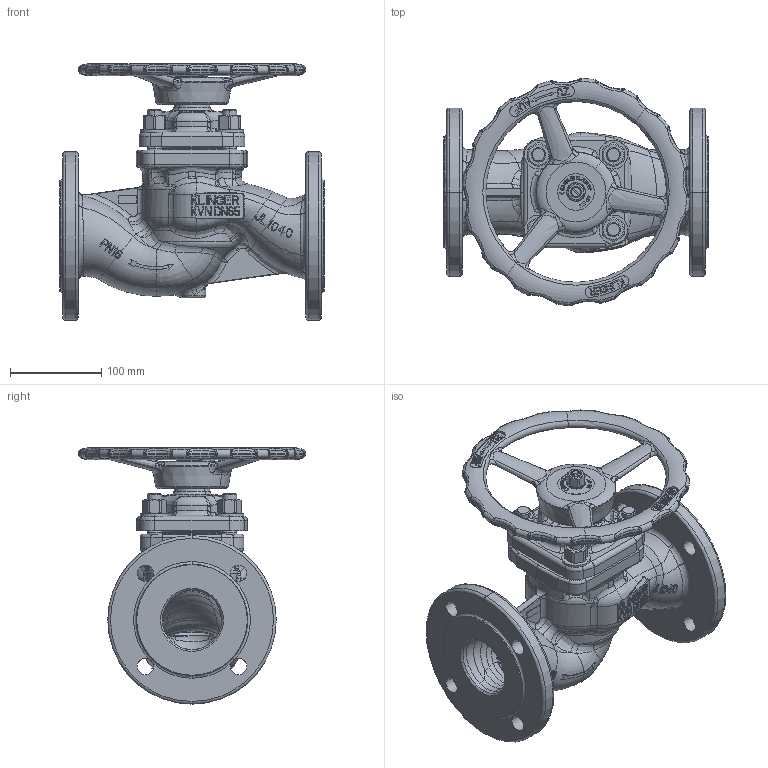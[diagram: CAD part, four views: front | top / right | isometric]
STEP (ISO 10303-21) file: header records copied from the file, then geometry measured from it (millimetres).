
FILE_DESCRIPTION((''),'2;1');
FILE_NAME('KVNFL065S-----P016DGG_SW0001','2015-07-08T',('jeitlers'),('RAND'),'PRO/ENGINEER BY PARAMETRIC TECHNOLOGY CORPORATION, 2013410','PRO/ENGINEER BY PARAMETRIC TECHNOLOGY CORPORATION, 2013410','');
FILE_SCHEMA(('CONFIG_CONTROL_DESIGN'));
Products named in the file (1): KVNFL065S-----P016DGG_SW0001
Bounding box: 290 x 249.71 x 281.44 mm (x, y, z)
Volume: 2861844.8 mm3; surface area: 496817.9 mm2
Topology: 2 solids, 2 shells, 3331 faces, 8632 edges, 5404 vertices
Faces by surface type: plane 1770, bspline 790, cylinder 378, torus 186, cone 168, sphere 36, extrusion 2, revolution 1
Entity records: 291040 total; most frequent: CARTESIAN_POINT 218067, ORIENTED_EDGE 17256, DIRECTION 12060, EDGE_CURVE 8628, VERTEX_POINT 5404, AXIS2_PLACEMENT_3D 4213, VECTOR 3633, LINE 3631
